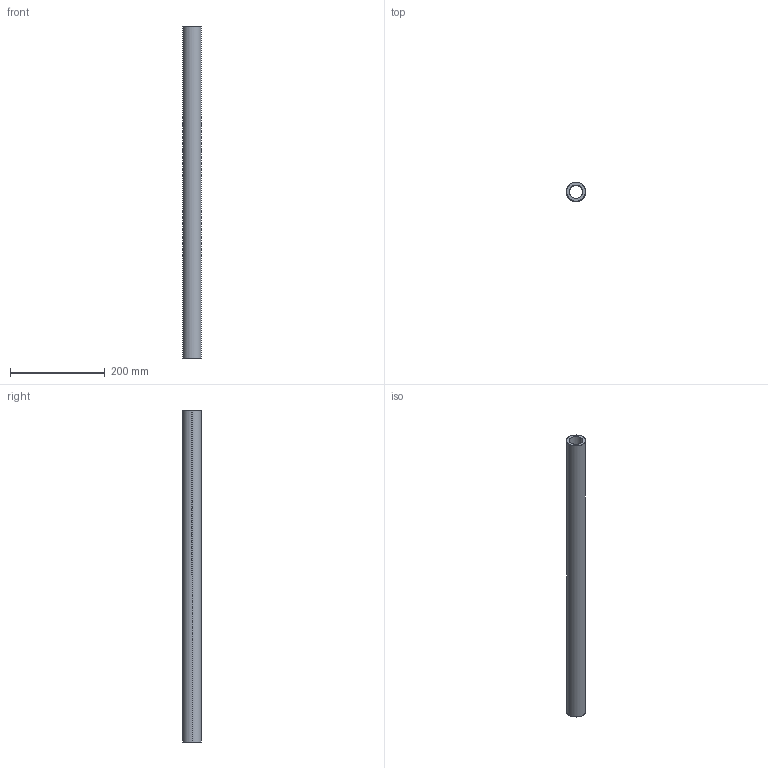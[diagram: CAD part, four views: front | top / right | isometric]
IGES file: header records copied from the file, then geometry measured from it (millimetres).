
Start section: SolidWorks IGES file using analytic representation for surfaces
Global section: file name: C:\Users\IanO\Desktop\L1771_v2\L1771.40_v2\L1771.40_v2_20230705_IGES\L1771.40-0700.igs; native system: SolidWorks 2019; preprocessor: SolidWorks 2019; author: IanO; date: 230705.160129; units: millimetre
Bounding box: 40 x 40 x 700 mm (x, y, z)
Surface area: 150821.6 mm2 (no closed solid volume)
Topology: 0 solids, 0 shells, 6 faces, 272 edges, 272 vertices
Faces by surface type: revolution 4, bspline 2
